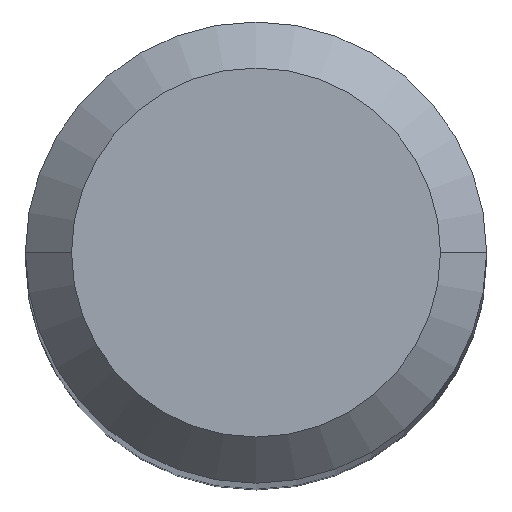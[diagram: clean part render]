
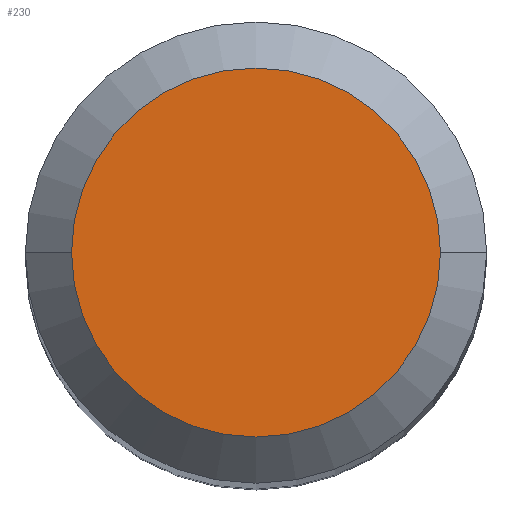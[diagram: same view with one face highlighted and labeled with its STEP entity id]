
A CAD part, top view. The second image highlights one B-rep face of the part: STEP entity #230.
In plain terms, the highlighted planar face has unit normal (0, 0, 1).
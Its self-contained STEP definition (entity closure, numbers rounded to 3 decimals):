
#1 = EDGE_CURVE ( 'NONE', #5, #111, #281, .T. ) ;
#5 = VERTEX_POINT ( 'NONE', #82 ) ;
#14 = ORIENTED_EDGE ( 'NONE', *, *, #178, .F. ) ;
#20 = DIRECTION ( 'NONE',  ( -1., 0., 0. ) ) ;
#31 = PLANE ( 'NONE',  #169 ) ;
#53 = CARTESIAN_POINT ( 'NONE',  ( 0., 0., 0. ) ) ;
#77 = CIRCLE ( 'NONE', #322, 2.4 ) ;
#82 = CARTESIAN_POINT ( 'NONE',  ( 2.4, 0., 0. ) ) ;
#107 = AXIS2_PLACEMENT_3D ( 'NONE', #53, #312, #20 ) ;
#111 = VERTEX_POINT ( 'NONE', #199 ) ;
#119 = DIRECTION ( 'NONE',  ( 1., 0., 0. ) ) ;
#151 = DIRECTION ( 'NONE',  ( 0., 0., -1. ) ) ;
#169 = AXIS2_PLACEMENT_3D ( 'NONE', #224, #353, #119 ) ;
#178 = EDGE_CURVE ( 'NONE', #111, #5, #77, .T. ) ;
#188 = DIRECTION ( 'NONE',  ( -1., 0., 0. ) ) ;
#199 = CARTESIAN_POINT ( 'NONE',  ( -2.4, 0., 0. ) ) ;
#224 = CARTESIAN_POINT ( 'NONE',  ( 0., 2.4, 0. ) ) ;
#230 = ADVANCED_FACE ( 'NONE', ( #292 ), #31, .T. ) ;
#268 = EDGE_LOOP ( 'NONE', ( #14, #297 ) ) ;
#281 = CIRCLE ( 'NONE', #107, 2.4 ) ;
#289 = CARTESIAN_POINT ( 'NONE',  ( 0., 0., 0. ) ) ;
#292 = FACE_OUTER_BOUND ( 'NONE', #268, .T. ) ;
#297 = ORIENTED_EDGE ( 'NONE', *, *, #1, .F. ) ;
#312 = DIRECTION ( 'NONE',  ( 0., 0., -1. ) ) ;
#322 = AXIS2_PLACEMENT_3D ( 'NONE', #289, #151, #188 ) ;
#353 = DIRECTION ( 'NONE',  ( 0., 0., 1. ) ) ;
